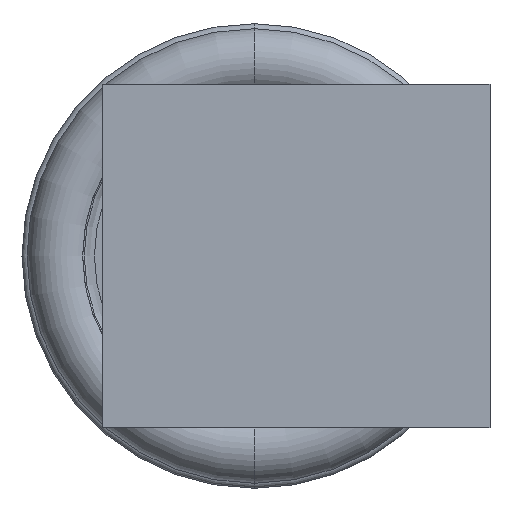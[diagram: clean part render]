
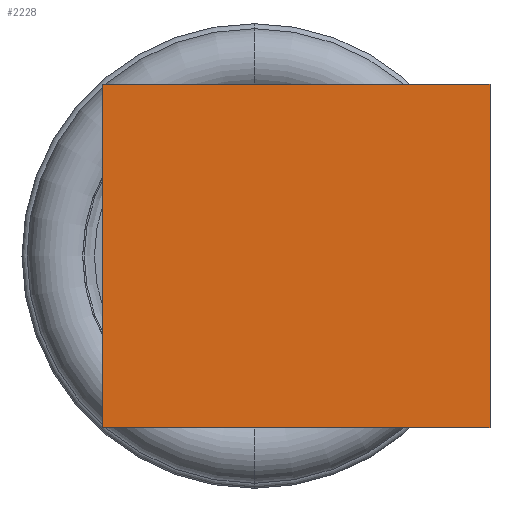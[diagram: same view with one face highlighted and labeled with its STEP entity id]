
A CAD part, left-side view. The second image highlights one B-rep face of the part: STEP entity #2228.
In plain terms, the highlighted planar face has unit normal (-1, 0, 0).
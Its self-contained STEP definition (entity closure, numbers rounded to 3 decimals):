
#73 = ORIENTED_EDGE ( 'NONE', *, *, #2201, .F. ) ;
#115 = CARTESIAN_POINT ( 'NONE',  ( -140., 4.5, 5.1 ) ) ;
#209 = CARTESIAN_POINT ( 'NONE',  ( -140., -7., 5.1 ) ) ;
#212 = CARTESIAN_POINT ( 'NONE',  ( -140., -7., -5.1 ) ) ;
#224 = ORIENTED_EDGE ( 'NONE', *, *, #3078, .F. ) ;
#471 = CARTESIAN_POINT ( 'NONE',  ( -140., 0., -5.1 ) ) ;
#738 = DIRECTION ( 'NONE',  ( -1., 0., 0. ) ) ;
#800 = DIRECTION ( 'NONE',  ( 0., -1., 0. ) ) ;
#868 = AXIS2_PLACEMENT_3D ( 'NONE', #3307, #738, #1284 ) ;
#957 = VERTEX_POINT ( 'NONE', #1809 ) ;
#975 = VERTEX_POINT ( 'NONE', #212 ) ;
#1087 = VERTEX_POINT ( 'NONE', #115 ) ;
#1142 = VERTEX_POINT ( 'NONE', #209 ) ;
#1265 = DIRECTION ( 'NONE',  ( 0., -1., 0. ) ) ;
#1284 = DIRECTION ( 'NONE',  ( 0., -1., 0. ) ) ;
#1296 = VECTOR ( 'NONE', #800, 1000. ) ;
#1311 = CARTESIAN_POINT ( 'NONE',  ( -140., 4.5, 0. ) ) ;
#1329 = CARTESIAN_POINT ( 'NONE',  ( -140., 0., 5.1 ) ) ;
#1644 = VECTOR ( 'NONE', #1265, 1000. ) ;
#1645 = CARTESIAN_POINT ( 'NONE',  ( -140., -7., -15. ) ) ;
#1797 = LINE ( 'NONE', #1329, #1296 ) ;
#1809 = CARTESIAN_POINT ( 'NONE',  ( -140., 4.5, -5.1 ) ) ;
#1910 = DIRECTION ( 'NONE',  ( 0., 0., 1. ) ) ;
#1971 = FACE_OUTER_BOUND ( 'NONE', #3155, .T. ) ;
#2003 = ORIENTED_EDGE ( 'NONE', *, *, #2104, .T. ) ;
#2104 = EDGE_CURVE ( 'NONE', #957, #975, #2417, .T. ) ;
#2201 = EDGE_CURVE ( 'NONE', #957, #1087, #2580, .T. ) ;
#2228 = ADVANCED_FACE ( 'NONE', ( #1971 ), #2324, .T. ) ;
#2256 = VECTOR ( 'NONE', #1910, 1000. ) ;
#2324 = PLANE ( 'NONE',  #868 ) ;
#2417 = LINE ( 'NONE', #471, #1644 ) ;
#2462 = LINE ( 'NONE', #1645, #2256 ) ;
#2580 = LINE ( 'NONE', #1311, #3017 ) ;
#2792 = EDGE_CURVE ( 'NONE', #975, #1142, #2462, .T. ) ;
#3017 = VECTOR ( 'NONE', #3070, 1000. ) ;
#3070 = DIRECTION ( 'NONE',  ( 0., 0., 1. ) ) ;
#3078 = EDGE_CURVE ( 'NONE', #1087, #1142, #1797, .T. ) ;
#3155 = EDGE_LOOP ( 'NONE', ( #73, #2003, #3275, #224 ) ) ;
#3275 = ORIENTED_EDGE ( 'NONE', *, *, #2792, .T. ) ;
#3307 = CARTESIAN_POINT ( 'NONE',  ( -140., 0., 0. ) ) ;
